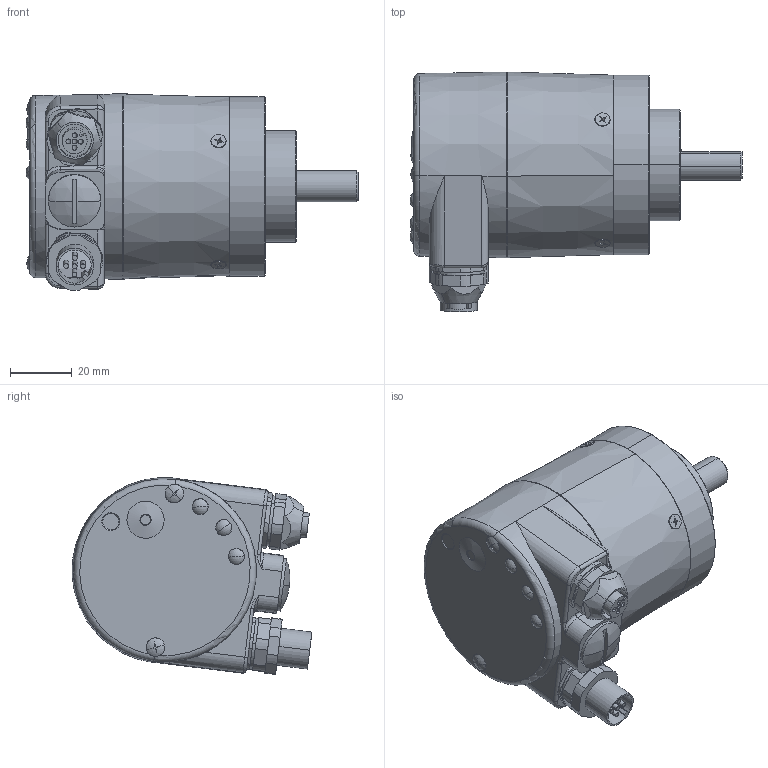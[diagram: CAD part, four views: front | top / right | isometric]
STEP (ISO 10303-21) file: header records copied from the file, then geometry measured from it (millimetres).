
FILE_DESCRIPTION (( 'STEP AP214' ), '1' );
FILE_NAME ('5868.1222.XXXX.STEP', '2008-06-24T07:19:11', ( 'admin' ), ( 'Fritz Kübler GmbH' ), 'SwSTEP 2.0', 'SolidWorks 2007', '' );
FILE_SCHEMA (( 'AUTOMOTIVE_DESIGN' ));
Length unit declared in the file: millimetre
Products named in the file (1): 5868.1222.XXXX
Bounding box: 107.15 x 77.38 x 63.55 mm (x, y, z)
Surface area: 28872.8 mm2 (no closed solid volume)
Topology: 0 solids, 22 shells, 381 faces, 993 edges, 636 vertices
Faces by surface type: plane 161, cylinder 145, cone 40, torus 14, sphere 13, bspline 8
Entity records: 16496 total; most frequent: CARTESIAN_POINT 2807, DIRECTION 2124, ORIENTED_EDGE 1810, EDGE_CURVE 988, AXIS2_PLACEMENT_3D 807, VERTEX_POINT 636, VECTOR 510, LINE 510
